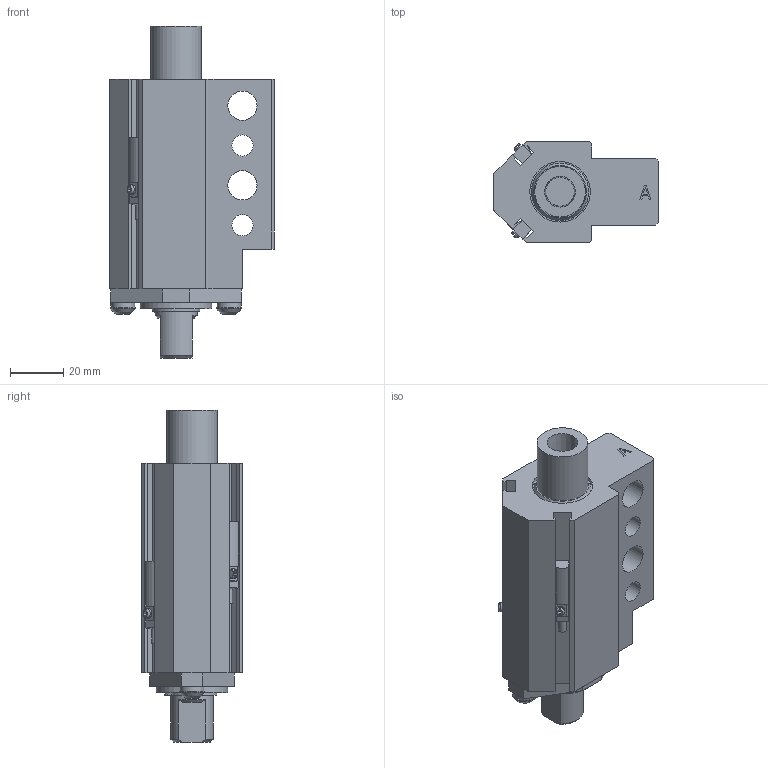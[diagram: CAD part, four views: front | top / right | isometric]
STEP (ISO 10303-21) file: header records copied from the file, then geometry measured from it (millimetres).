
FILE_DESCRIPTION(/* description */ ('MINI PASS THRU GROUND BLOCK'),/* implementation_level */ '2;1');
FILE_NAME(/* name */ 'C:\Vault Workspace\CAD\Welker\Cylinders\GBM\GBM0AL3.stp',/* time_stamp */ '2021-06-24T14:22:46-04:00',/* author */ ('KPL'),/* organization */ (''),/* preprocessor_version */ 'ST-DEVELOPER v18.1',/* originating_system */ 'Autodesk Inventor 2020',/* authorisation */ '');
FILE_SCHEMA (('AUTOMOTIVE_DESIGN { 1 0 10303 214 3 1 1 }'));
Products named in the file (10): GBML01; 91590A126; 96100A152; L3 Sensor 1; M5X0.8-10 BHCS; NL5; GBME01A; GBME02; GBME04; AN-05U2145
Assembly tree (12 placements, depth 2):
  GBML01
    91590A126
    96100A152
    L3 Sensor 1  x2
    M5X0.8-10 BHCS  x2
    NL5  x2
    GBME01A
    GBME02
    GBME04
    AN-05U2145
Bounding box: 62 x 38.1 x 125 mm (x, y, z)
Volume: 122555.8 mm3; surface area: 46782.8 mm2
Topology: 12 solids, 12 shells, 422 faces, 1159 edges, 772 vertices
Faces by surface type: plane 306, cylinder 93, cone 15, torus 4, sphere 2, bspline 2
Full cylindrical faces by diameter (mm): 1.194 x2, 2.9 x2, 4.134 x2, 5 x2, 5.4 x2, 5.5 x2, 6.647 x1, 8 x2, 9 x2, 9.5 x2, 11 x2, 14.935 x1, 15.875 x3, 16.383 x1, 19.05 x1, 19.177 x1, 22.225 x2, 22.784 x1, 24.613 x1, 25.654 x1, 25.705 x1, 26.987 x1, 28.591 x1, 28.667 x1
Entity records: 9451 total; most frequent: CARTESIAN_POINT 1654, DIRECTION 1561, ORIENTED_EDGE 1502, EDGE_CURVE 751, AXIS2_PLACEMENT_3D 526, LINE 509, VECTOR 509, VERTEX_POINT 509
